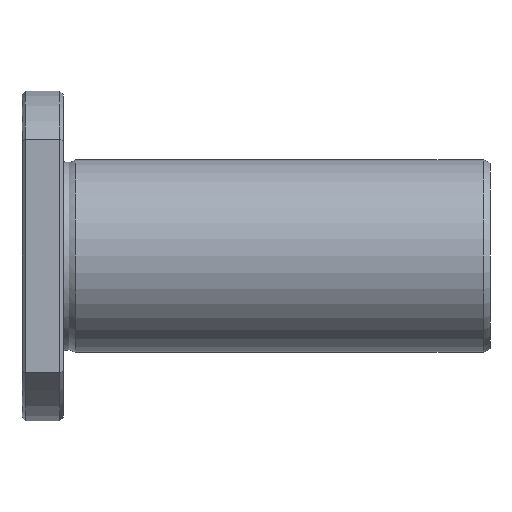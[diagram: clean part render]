
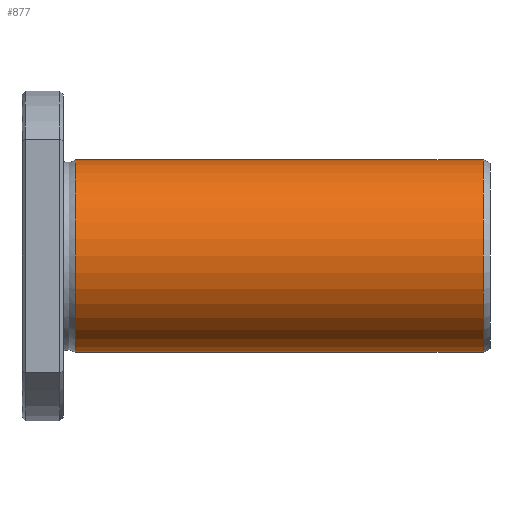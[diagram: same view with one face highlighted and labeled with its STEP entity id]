
A CAD part, front view. The second image highlights one B-rep face of the part: STEP entity #877.
In plain terms, the highlighted cylindrical face has radius 14 mm (diameter 28 mm), a full revolution.
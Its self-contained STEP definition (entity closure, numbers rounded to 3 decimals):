
#843=CARTESIAN_POINT('',(66.999,0.0,14.));
#844=VERTEX_POINT('',#843);
#845=CARTESIAN_POINT('',(66.999,0.0,0.0));
#846=DIRECTION('',(-1.0,0.0,0.0));
#847=DIRECTION('',(0.0,0.0,1.0));
#848=AXIS2_PLACEMENT_3D('',#845,#846,#847);
#849=CIRCLE('',#848,14.);
#850=EDGE_CURVE('',#844,#844,#849,.T.);
#858=CARTESIAN_POINT('',(37.359,0.0,0.0));
#859=DIRECTION('',(-1.0,0.0,0.0));
#860=DIRECTION('',(0.0,0.0,1.0));
#861=AXIS2_PLACEMENT_3D('',#858,#859,#860);
#862=CYLINDRICAL_SURFACE('',#861,14.);
#863=CARTESIAN_POINT('',(7.72,0.0,14.));
#864=VERTEX_POINT('',#863);
#865=CARTESIAN_POINT('',(7.72,0.0,0.0));
#866=DIRECTION('',(-1.0,0.0,0.0));
#867=DIRECTION('',(0.0,0.0,1.0));
#868=AXIS2_PLACEMENT_3D('',#865,#866,#867);
#869=CIRCLE('',#868,14.);
#870=EDGE_CURVE('',#864,#864,#869,.T.);
#871=ORIENTED_EDGE('',*,*,#870,.F.);
#872=EDGE_LOOP('',(#871));
#873=FACE_OUTER_BOUND('',#872,.T.);
#874=ORIENTED_EDGE('',*,*,#850,.T.);
#875=EDGE_LOOP('',(#874));
#876=FACE_BOUND('',#875,.T.);
#877=ADVANCED_FACE('',(#873,#876),#862,.T.);
